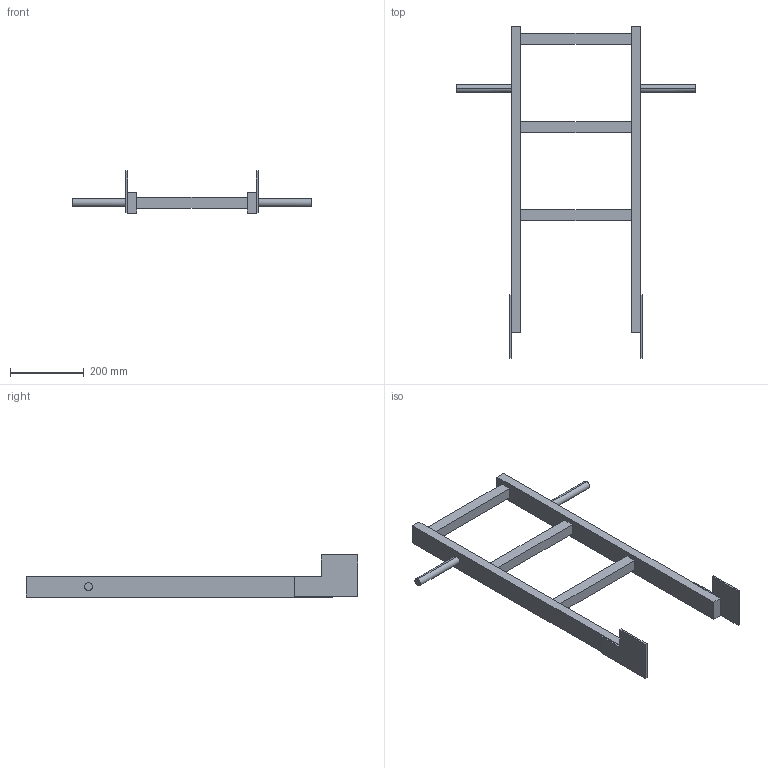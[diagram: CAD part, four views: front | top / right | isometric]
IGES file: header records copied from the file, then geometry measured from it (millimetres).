
Start section:  PTC IGES file: 52330571.igs
Global section: file name: 52330571.igs; native system: Creo Parametric by PTC Inc.; preprocessor: 2022162; author: wep; organization: Unknown; date: 20241218.080544; units: millimetre
Bounding box: 650 x 903 x 115 mm (x, y, z)
Surface area: 446154.8 mm2 (no closed solid volume)
Topology: 0 solids, 0 shells, 46 faces, 232 edges, 232 vertices
Faces by surface type: bspline 42, revolution 4
